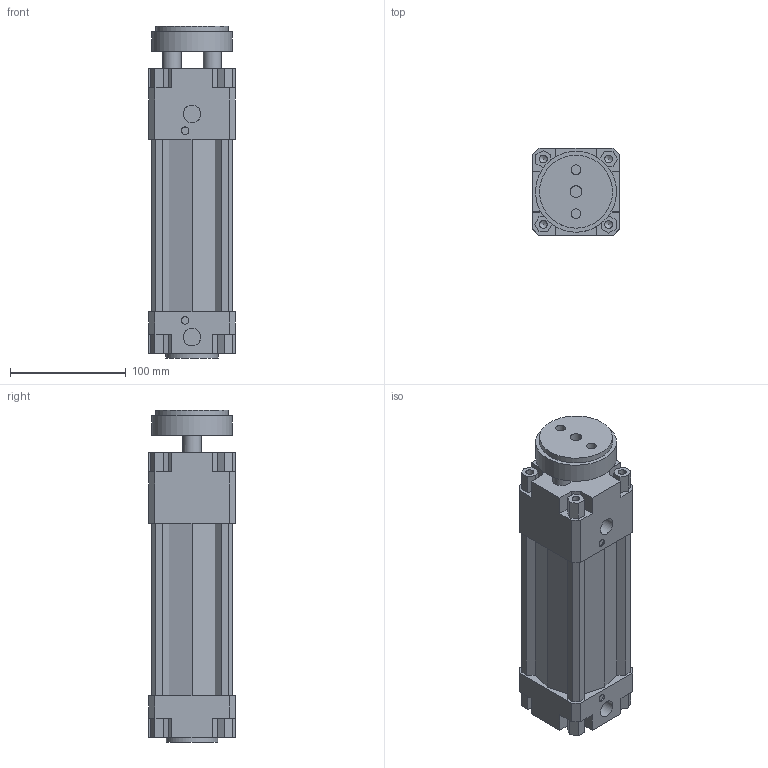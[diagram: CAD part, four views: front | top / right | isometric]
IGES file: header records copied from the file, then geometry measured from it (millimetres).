
Global section: file name: 134#_063_0100_01; native system: Autodesk Inventor 2014; preprocessor: unknown; author: A. Manieri; date: 20161006.165112; units: millimetre
Bounding box: 75 x 75 x 287 mm (x, y, z)
Volume: 970588.4 mm3; surface area: 184577.4 mm2
Topology: 2 solids, 2 shells, 180 faces, 491 edges, 335 vertices
Faces by surface type: bspline 180
